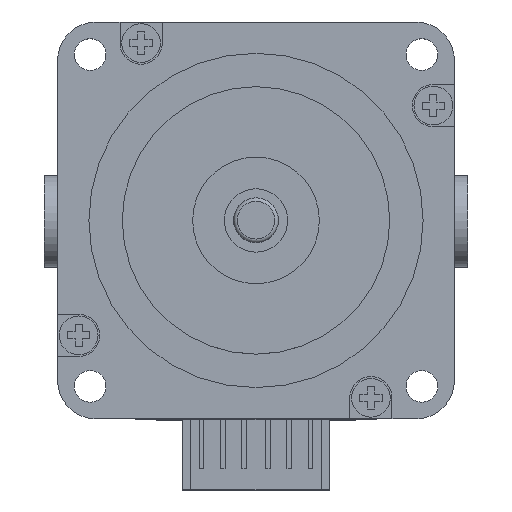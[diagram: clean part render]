
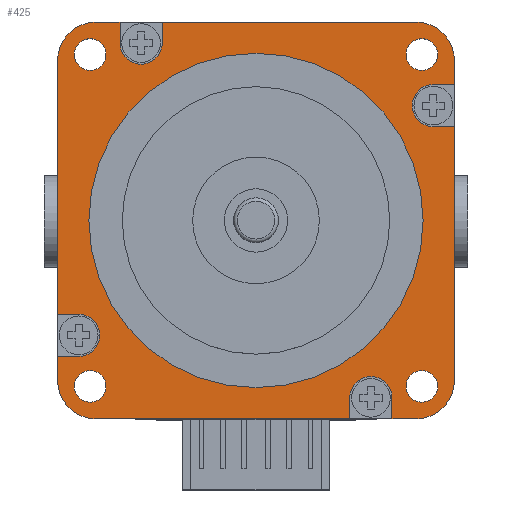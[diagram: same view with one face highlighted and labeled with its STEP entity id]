
A CAD part, top view. The second image highlights one B-rep face of the part: STEP entity #425.
In plain terms, the highlighted planar face has unit normal (0, 0, 1).
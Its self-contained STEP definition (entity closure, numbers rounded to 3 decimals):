
#425=ADVANCED_FACE('',(#1066,#1067,#1068,#1069,#1070,#1071),#699,.T.);
#699=PLANE('',#5116);
#924=CIRCLE('',#5103,5.5);
#925=CIRCLE('',#5104,3.);
#926=CIRCLE('',#5105,5.5);
#927=CIRCLE('',#5106,3.);
#928=CIRCLE('',#5107,5.5);
#929=CIRCLE('',#5108,3.);
#930=CIRCLE('',#5109,5.5);
#931=CIRCLE('',#5110,3.);
#932=CIRCLE('',#5111,23.75);
#933=CIRCLE('',#5112,2.25);
#934=CIRCLE('',#5113,2.25);
#935=CIRCLE('',#5114,2.25);
#936=CIRCLE('',#5115,2.25);
#1066=FACE_BOUND('',#1182,.T.);
#1067=FACE_BOUND('',#1183,.T.);
#1068=FACE_BOUND('',#1184,.T.);
#1069=FACE_BOUND('',#1185,.T.);
#1070=FACE_BOUND('',#1186,.T.);
#1071=FACE_BOUND('',#1187,.T.);
#1182=EDGE_LOOP('',(#1683,#1684,#1685,#1686,#1687,#1688,#1689,#1690,#1691,
#1692,#1693,#1694,#1695,#1696,#1697,#1698,#1699,#1700,#1701,#1702,#1703,
#1704,#1705,#1706));
#1183=EDGE_LOOP('',(#1707));
#1184=EDGE_LOOP('',(#1708));
#1185=EDGE_LOOP('',(#1709));
#1186=EDGE_LOOP('',(#1710));
#1187=EDGE_LOOP('',(#1711));
#1683=ORIENTED_EDGE('',*,*,#3518,.T.);
#1684=ORIENTED_EDGE('',*,*,#3519,.T.);
#1685=ORIENTED_EDGE('',*,*,#3520,.T.);
#1686=ORIENTED_EDGE('',*,*,#3521,.F.);
#1687=ORIENTED_EDGE('',*,*,#3522,.F.);
#1688=ORIENTED_EDGE('',*,*,#3523,.F.);
#1689=ORIENTED_EDGE('',*,*,#3524,.T.);
#1690=ORIENTED_EDGE('',*,*,#3525,.T.);
#1691=ORIENTED_EDGE('',*,*,#3526,.T.);
#1692=ORIENTED_EDGE('',*,*,#3527,.F.);
#1693=ORIENTED_EDGE('',*,*,#3528,.F.);
#1694=ORIENTED_EDGE('',*,*,#3529,.F.);
#1695=ORIENTED_EDGE('',*,*,#3530,.T.);
#1696=ORIENTED_EDGE('',*,*,#3531,.T.);
#1697=ORIENTED_EDGE('',*,*,#3514,.T.);
#1698=ORIENTED_EDGE('',*,*,#3532,.T.);
#1699=ORIENTED_EDGE('',*,*,#3533,.T.);
#1700=ORIENTED_EDGE('',*,*,#3534,.T.);
#1701=ORIENTED_EDGE('',*,*,#3510,.T.);
#1702=ORIENTED_EDGE('',*,*,#3535,.T.);
#1703=ORIENTED_EDGE('',*,*,#3536,.T.);
#1704=ORIENTED_EDGE('',*,*,#3537,.F.);
#1705=ORIENTED_EDGE('',*,*,#3538,.F.);
#1706=ORIENTED_EDGE('',*,*,#3539,.F.);
#1707=ORIENTED_EDGE('',*,*,#3540,.T.);
#1708=ORIENTED_EDGE('',*,*,#3541,.F.);
#1709=ORIENTED_EDGE('',*,*,#3542,.F.);
#1710=ORIENTED_EDGE('',*,*,#3543,.F.);
#1711=ORIENTED_EDGE('',*,*,#3544,.F.);
#3037=VERTEX_POINT('',#7265);
#3038=VERTEX_POINT('',#7267);
#3041=VERTEX_POINT('',#7273);
#3042=VERTEX_POINT('',#7275);
#3045=VERTEX_POINT('',#7283);
#3046=VERTEX_POINT('',#7284);
#3047=VERTEX_POINT('',#7286);
#3048=VERTEX_POINT('',#7288);
#3049=VERTEX_POINT('',#7290);
#3050=VERTEX_POINT('',#7292);
#3051=VERTEX_POINT('',#7294);
#3052=VERTEX_POINT('',#7296);
#3053=VERTEX_POINT('',#7298);
#3054=VERTEX_POINT('',#7300);
#3055=VERTEX_POINT('',#7302);
#3056=VERTEX_POINT('',#7304);
#3057=VERTEX_POINT('',#7306);
#3058=VERTEX_POINT('',#7308);
#3059=VERTEX_POINT('',#7311);
#3060=VERTEX_POINT('',#7313);
#3061=VERTEX_POINT('',#7316);
#3062=VERTEX_POINT('',#7318);
#3063=VERTEX_POINT('',#7320);
#3064=VERTEX_POINT('',#7322);
#3065=VERTEX_POINT('',#7325);
#3066=VERTEX_POINT('',#7327);
#3067=VERTEX_POINT('',#7329);
#3068=VERTEX_POINT('',#7331);
#3069=VERTEX_POINT('',#7333);
#3510=EDGE_CURVE('',#3038,#3037,#4144,.T.);
#3514=EDGE_CURVE('',#3042,#3041,#4148,.T.);
#3518=EDGE_CURVE('',#3045,#3046,#4152,.T.);
#3519=EDGE_CURVE('',#3046,#3047,#924,.T.);
#3520=EDGE_CURVE('',#3047,#3048,#4153,.T.);
#3521=EDGE_CURVE('',#3049,#3048,#4154,.T.);
#3522=EDGE_CURVE('',#3050,#3049,#925,.T.);
#3523=EDGE_CURVE('',#3051,#3050,#4155,.T.);
#3524=EDGE_CURVE('',#3051,#3052,#4156,.T.);
#3525=EDGE_CURVE('',#3052,#3053,#926,.T.);
#3526=EDGE_CURVE('',#3053,#3054,#4157,.T.);
#3527=EDGE_CURVE('',#3055,#3054,#4158,.T.);
#3528=EDGE_CURVE('',#3056,#3055,#927,.T.);
#3529=EDGE_CURVE('',#3057,#3056,#4159,.T.);
#3530=EDGE_CURVE('',#3057,#3058,#4160,.T.);
#3531=EDGE_CURVE('',#3058,#3042,#928,.T.);
#3532=EDGE_CURVE('',#3041,#3059,#4161,.T.);
#3533=EDGE_CURVE('',#3059,#3060,#929,.T.);
#3534=EDGE_CURVE('',#3060,#3038,#4162,.T.);
#3535=EDGE_CURVE('',#3037,#3061,#930,.T.);
#3536=EDGE_CURVE('',#3061,#3062,#4163,.T.);
#3537=EDGE_CURVE('',#3063,#3062,#4164,.T.);
#3538=EDGE_CURVE('',#3064,#3063,#931,.T.);
#3539=EDGE_CURVE('',#3045,#3064,#4165,.T.);
#3540=EDGE_CURVE('',#3065,#3065,#932,.T.);
#3541=EDGE_CURVE('',#3066,#3066,#933,.T.);
#3542=EDGE_CURVE('',#3067,#3067,#934,.T.);
#3543=EDGE_CURVE('',#3068,#3068,#935,.T.);
#3544=EDGE_CURVE('',#3069,#3069,#936,.T.);
#4144=LINE('',#7266,#4656);
#4148=LINE('',#7274,#4660);
#4152=LINE('',#7282,#4664);
#4153=LINE('',#7287,#4665);
#4154=LINE('',#7289,#4666);
#4155=LINE('',#7293,#4667);
#4156=LINE('',#7295,#4668);
#4157=LINE('',#7299,#4669);
#4158=LINE('',#7301,#4670);
#4159=LINE('',#7305,#4671);
#4160=LINE('',#7307,#4672);
#4161=LINE('',#7310,#4673);
#4162=LINE('',#7314,#4674);
#4163=LINE('',#7317,#4675);
#4164=LINE('',#7319,#4676);
#4165=LINE('',#7323,#4677);
#4656=VECTOR('',#5744,1.);
#4660=VECTOR('',#5748,1.);
#4664=VECTOR('',#5754,1.);
#4665=VECTOR('',#5757,1.);
#4666=VECTOR('',#5758,1.);
#4667=VECTOR('',#5761,1.);
#4668=VECTOR('',#5762,1.);
#4669=VECTOR('',#5765,1.);
#4670=VECTOR('',#5766,1.);
#4671=VECTOR('',#5769,1.);
#4672=VECTOR('',#5770,1.);
#4673=VECTOR('',#5773,1.);
#4674=VECTOR('',#5776,1.);
#4675=VECTOR('',#5779,1.);
#4676=VECTOR('',#5780,1.);
#4677=VECTOR('',#5783,1.);
#5103=AXIS2_PLACEMENT_3D('',#7285,#5755,#5756);
#5104=AXIS2_PLACEMENT_3D('',#7291,#5759,#5760);
#5105=AXIS2_PLACEMENT_3D('',#7297,#5763,#5764);
#5106=AXIS2_PLACEMENT_3D('',#7303,#5767,#5768);
#5107=AXIS2_PLACEMENT_3D('',#7309,#5771,#5772);
#5108=AXIS2_PLACEMENT_3D('',#7312,#5774,#5775);
#5109=AXIS2_PLACEMENT_3D('',#7315,#5777,#5778);
#5110=AXIS2_PLACEMENT_3D('',#7321,#5781,#5782);
#5111=AXIS2_PLACEMENT_3D('',#7324,#5784,#5785);
#5112=AXIS2_PLACEMENT_3D('',#7326,#5786,#5787);
#5113=AXIS2_PLACEMENT_3D('',#7328,#5788,#5789);
#5114=AXIS2_PLACEMENT_3D('',#7330,#5790,#5791);
#5115=AXIS2_PLACEMENT_3D('',#7332,#5792,#5793);
#5116=AXIS2_PLACEMENT_3D('',#7334,#5794,#5795);
#5744=DIRECTION('',(-1.,0.,0.));
#5748=DIRECTION('',(-1.,0.,0.));
#5754=DIRECTION('',(0.,-1.,0.));
#5755=DIRECTION('',(0.,0.,1.));
#5756=DIRECTION('',(1.,0.,0.));
#5757=DIRECTION('',(1.,0.,0.));
#5758=DIRECTION('',(0.,-1.,0.));
#5759=DIRECTION('',(0.,0.,1.));
#5760=DIRECTION('',(-1.,0.,0.));
#5761=DIRECTION('',(0.,1.,0.));
#5762=DIRECTION('',(1.,0.,0.));
#5763=DIRECTION('',(0.,0.,1.));
#5764=DIRECTION('',(1.,0.,0.));
#5765=DIRECTION('',(0.,1.,0.));
#5766=DIRECTION('',(1.,0.,0.));
#5767=DIRECTION('',(0.,0.,1.));
#5768=DIRECTION('',(0.,-1.,0.));
#5769=DIRECTION('',(-1.,0.,0.));
#5770=DIRECTION('',(0.,1.,0.));
#5771=DIRECTION('',(0.,0.,1.));
#5772=DIRECTION('',(1.,0.,0.));
#5773=DIRECTION('',(0.,-1.,0.));
#5774=DIRECTION('',(0.,0.,-1.));
#5775=DIRECTION('',(1.,0.,0.));
#5776=DIRECTION('',(0.,1.,0.));
#5777=DIRECTION('',(0.,0.,1.));
#5778=DIRECTION('',(1.,0.,0.));
#5779=DIRECTION('',(0.,-1.,0.));
#5780=DIRECTION('',(-1.,0.,0.));
#5781=DIRECTION('',(0.,0.,1.));
#5782=DIRECTION('',(0.,1.,0.));
#5783=DIRECTION('',(1.,0.,0.));
#5784=DIRECTION('',(0.,0.,-1.));
#5785=DIRECTION('',(1.,0.,0.));
#5786=DIRECTION('',(0.,0.,1.));
#5787=DIRECTION('',(1.,0.,0.));
#5788=DIRECTION('',(0.,0.,1.));
#5789=DIRECTION('',(1.,0.,0.));
#5790=DIRECTION('',(0.,0.,1.));
#5791=DIRECTION('',(1.,0.,0.));
#5792=DIRECTION('',(0.,0.,1.));
#5793=DIRECTION('',(1.,0.,0.));
#5794=DIRECTION('',(0.,0.,1.));
#5795=DIRECTION('',(1.,0.,0.));
#7265=CARTESIAN_POINT('',(-22.7,28.2,0.));
#7266=CARTESIAN_POINT('',(28.2,28.2,0.));
#7267=CARTESIAN_POINT('',(-19.324,28.2,0.));
#7273=CARTESIAN_POINT('',(-13.324,28.2,0.));
#7274=CARTESIAN_POINT('',(28.2,28.2,0.));
#7275=CARTESIAN_POINT('',(22.7,28.2,0.));
#7282=CARTESIAN_POINT('',(-28.2,28.2,0.));
#7283=CARTESIAN_POINT('',(-28.2,-19.324,0.));
#7284=CARTESIAN_POINT('',(-28.2,-22.7,0.));
#7285=CARTESIAN_POINT('',(-22.7,-22.7,0.));
#7286=CARTESIAN_POINT('',(-22.7,-28.2,0.));
#7287=CARTESIAN_POINT('',(-28.2,-28.2,0.));
#7288=CARTESIAN_POINT('',(13.324,-28.2,0.));
#7289=CARTESIAN_POINT('',(13.324,-25.2,0.));
#7290=CARTESIAN_POINT('',(13.324,-25.2,0.));
#7291=CARTESIAN_POINT('',(16.324,-25.2,0.));
#7292=CARTESIAN_POINT('',(19.324,-25.2,0.));
#7293=CARTESIAN_POINT('',(19.324,-28.2,0.));
#7294=CARTESIAN_POINT('',(19.324,-28.2,0.));
#7295=CARTESIAN_POINT('',(-28.2,-28.2,0.));
#7296=CARTESIAN_POINT('',(22.7,-28.2,0.));
#7297=CARTESIAN_POINT('',(22.7,-22.7,0.));
#7298=CARTESIAN_POINT('',(28.2,-22.7,0.));
#7299=CARTESIAN_POINT('',(28.2,-28.2,0.));
#7300=CARTESIAN_POINT('',(28.2,13.324,0.));
#7301=CARTESIAN_POINT('',(25.2,13.324,0.));
#7302=CARTESIAN_POINT('',(25.2,13.324,0.));
#7303=CARTESIAN_POINT('',(25.2,16.324,0.));
#7304=CARTESIAN_POINT('',(25.2,19.324,0.));
#7305=CARTESIAN_POINT('',(28.2,19.324,0.));
#7306=CARTESIAN_POINT('',(28.2,19.324,0.));
#7307=CARTESIAN_POINT('',(28.2,-28.2,0.));
#7308=CARTESIAN_POINT('',(28.2,22.7,0.));
#7309=CARTESIAN_POINT('',(22.7,22.7,0.));
#7310=CARTESIAN_POINT('',(-13.324,28.2,0.));
#7311=CARTESIAN_POINT('',(-13.324,25.2,0.));
#7312=CARTESIAN_POINT('',(-16.324,25.2,0.));
#7313=CARTESIAN_POINT('',(-19.324,25.2,0.));
#7314=CARTESIAN_POINT('',(-19.324,25.2,0.));
#7315=CARTESIAN_POINT('',(-22.7,22.7,0.));
#7316=CARTESIAN_POINT('',(-28.2,22.7,0.));
#7317=CARTESIAN_POINT('',(-28.2,28.2,0.));
#7318=CARTESIAN_POINT('',(-28.2,-13.324,0.));
#7319=CARTESIAN_POINT('',(-25.2,-13.324,0.));
#7320=CARTESIAN_POINT('',(-25.2,-13.324,0.));
#7321=CARTESIAN_POINT('',(-25.2,-16.324,0.));
#7322=CARTESIAN_POINT('',(-25.2,-19.324,0.));
#7323=CARTESIAN_POINT('',(-28.2,-19.324,0.));
#7324=CARTESIAN_POINT('',(0.,0.,0.));
#7325=CARTESIAN_POINT('',(23.75,0.,0.));
#7326=CARTESIAN_POINT('',(23.57,-23.57,0.));
#7327=CARTESIAN_POINT('',(25.82,-23.57,0.));
#7328=CARTESIAN_POINT('',(23.57,23.57,0.));
#7329=CARTESIAN_POINT('',(25.82,23.57,0.));
#7330=CARTESIAN_POINT('',(-23.57,23.57,0.));
#7331=CARTESIAN_POINT('',(-21.32,23.57,0.));
#7332=CARTESIAN_POINT('',(-23.57,-23.57,0.));
#7333=CARTESIAN_POINT('',(-21.32,-23.57,0.));
#7334=CARTESIAN_POINT('',(28.2,-28.2,0.));
